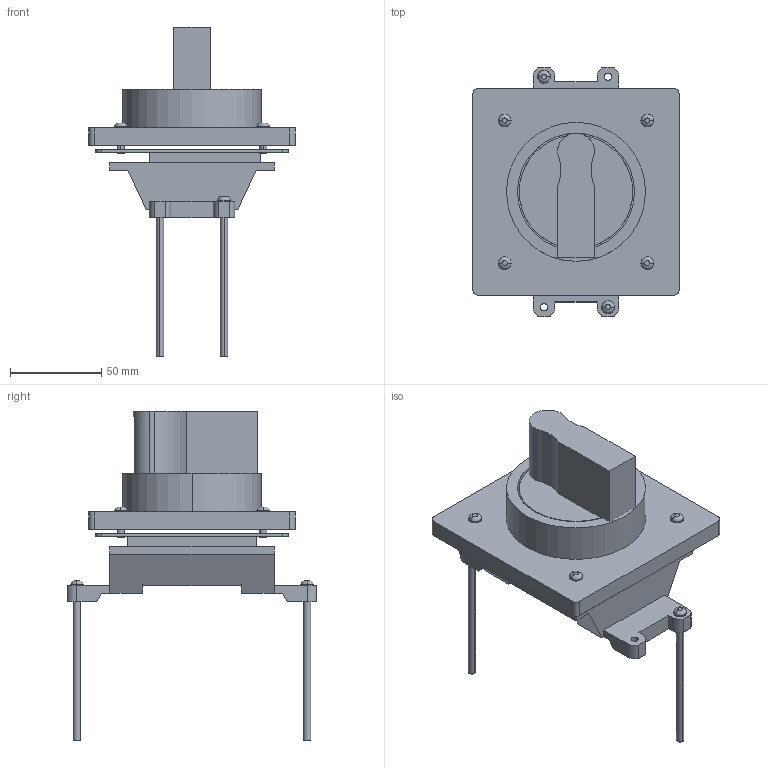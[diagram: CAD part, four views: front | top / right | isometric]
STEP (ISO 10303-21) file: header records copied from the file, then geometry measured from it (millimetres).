
FILE_DESCRIPTION( ( '' ), '1' );
FILE_NAME( 'E:/D&C電子外形図_3D/step/distribution/g-twin/breaker_accessory/handle/BW9V0CA.stp', '2012-10-19T07:49:18', ( '' ), ( '' ), ' ', ' ', ' ' );
FILE_SCHEMA( ( 'automotive_design' ) );
Length unit declared in the file: millimetre
Products named in the file (10): 1; 2; 3; 4; 5; 6; 7; 8; 9; 10
Bounding box: 113 x 136.6 x 180.1 mm (x, y, z)
Volume: 404905.1 mm3; surface area: 99015.2 mm2
Topology: 10 solids, 10 shells, 169 faces, 425 edges, 284 vertices
Faces by surface type: plane 81, cylinder 76, torus 12
Entity records: 10339 total; most frequent: DIRECTION 983, STYLED_ITEM 888, PRESENTATION_STYLE_ASSIGNMENT 888, CARTESIAN_POINT 888, COLOUR_RGB 888, ORIENTED_EDGE 850, EDGE_CURVE 425, CURVE_STYLE 425
